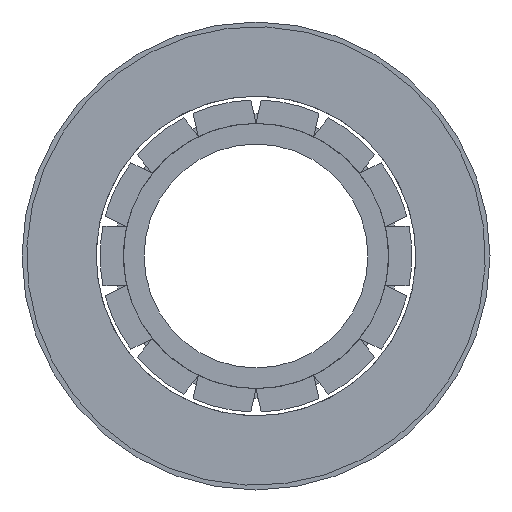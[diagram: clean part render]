
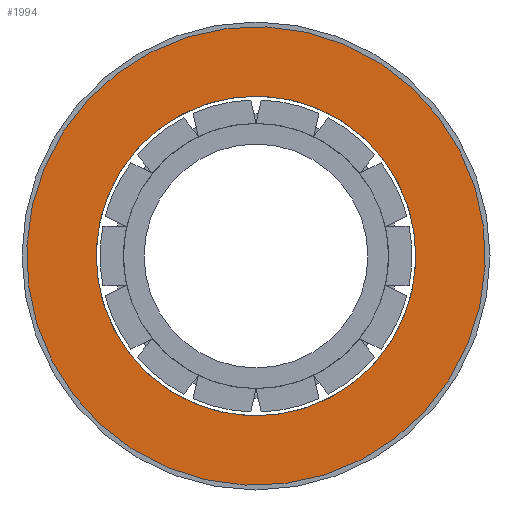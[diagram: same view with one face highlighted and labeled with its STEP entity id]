
A CAD part, left-side view. The second image highlights one B-rep face of the part: STEP entity #1994.
In plain terms, the highlighted planar face has unit normal (-1, 0, 0).
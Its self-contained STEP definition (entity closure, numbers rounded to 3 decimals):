
#123 = CARTESIAN_POINT ( 'NONE',  ( 0., 0., -29.4 ) ) ;
#142 = EDGE_LOOP ( 'NONE', ( #396, #358 ) ) ;
#260 = CARTESIAN_POINT ( 'NONE',  ( 0., 0., 29.4 ) ) ;
#273 = ORIENTED_EDGE ( 'NONE', *, *, #2447, .T. ) ;
#358 = ORIENTED_EDGE ( 'NONE', *, *, #1962, .F. ) ;
#394 = EDGE_CURVE ( 'NONE', #2033, #2489, #1580, .T. ) ;
#396 = ORIENTED_EDGE ( 'NONE', *, *, #394, .F. ) ;
#444 = AXIS2_PLACEMENT_3D ( 'NONE', #2082, #2071, #1088 ) ;
#454 = DIRECTION ( 'NONE',  ( 1., 0., 0. ) ) ;
#526 = CARTESIAN_POINT ( 'NONE',  ( 0., 0., 0. ) ) ;
#600 = DIRECTION ( 'NONE',  ( 1., 0., 0. ) ) ;
#1072 = CARTESIAN_POINT ( 'NONE',  ( 0., 0., 0. ) ) ;
#1088 = DIRECTION ( 'NONE',  ( 0., 0., -1. ) ) ;
#1120 = DIRECTION ( 'NONE',  ( 1., 0., 0. ) ) ;
#1175 = DIRECTION ( 'NONE',  ( 0., 0., -1. ) ) ;
#1272 = PLANE ( 'NONE',  #444 ) ;
#1355 = CIRCLE ( 'NONE', #1395, 20.5 ) ;
#1395 = AXIS2_PLACEMENT_3D ( 'NONE', #2157, #2575, #1175 ) ;
#1509 = CIRCLE ( 'NONE', #2117, 20.5 ) ;
#1580 = CIRCLE ( 'NONE', #2452, 29.4 ) ;
#1610 = EDGE_CURVE ( 'NONE', #2018, #1728, #1355, .T. ) ;
#1624 = CARTESIAN_POINT ( 'NONE',  ( 0., 0., 20.5 ) ) ;
#1728 = VERTEX_POINT ( 'NONE', #1624 ) ;
#1763 = CIRCLE ( 'NONE', #2569, 29.4 ) ;
#1798 = CARTESIAN_POINT ( 'NONE',  ( 0., 0., 0. ) ) ;
#1834 = ORIENTED_EDGE ( 'NONE', *, *, #1610, .T. ) ;
#1859 = CARTESIAN_POINT ( 'NONE',  ( 0., 0., -20.5 ) ) ;
#1884 = FACE_OUTER_BOUND ( 'NONE', #142, .T. ) ;
#1955 = EDGE_LOOP ( 'NONE', ( #273, #1834 ) ) ;
#1962 = EDGE_CURVE ( 'NONE', #2489, #2033, #1763, .T. ) ;
#1994 = ADVANCED_FACE ( 'NONE', ( #1884, #2147 ), #1272, .F. ) ;
#1998 = DIRECTION ( 'NONE',  ( 0., 0., -1. ) ) ;
#2018 = VERTEX_POINT ( 'NONE', #1859 ) ;
#2033 = VERTEX_POINT ( 'NONE', #260 ) ;
#2071 = DIRECTION ( 'NONE',  ( 1., 0., 0. ) ) ;
#2082 = CARTESIAN_POINT ( 'NONE',  ( 0., 0., 0. ) ) ;
#2117 = AXIS2_PLACEMENT_3D ( 'NONE', #526, #1120, #2506 ) ;
#2147 = FACE_BOUND ( 'NONE', #1955, .T. ) ;
#2157 = CARTESIAN_POINT ( 'NONE',  ( 0., 0., 0. ) ) ;
#2268 = DIRECTION ( 'NONE',  ( 0., 0., -1. ) ) ;
#2447 = EDGE_CURVE ( 'NONE', #1728, #2018, #1509, .T. ) ;
#2452 = AXIS2_PLACEMENT_3D ( 'NONE', #1798, #600, #1998 ) ;
#2489 = VERTEX_POINT ( 'NONE', #123 ) ;
#2506 = DIRECTION ( 'NONE',  ( 0., 0., -1. ) ) ;
#2569 = AXIS2_PLACEMENT_3D ( 'NONE', #1072, #454, #2268 ) ;
#2575 = DIRECTION ( 'NONE',  ( 1., 0., 0. ) ) ;
